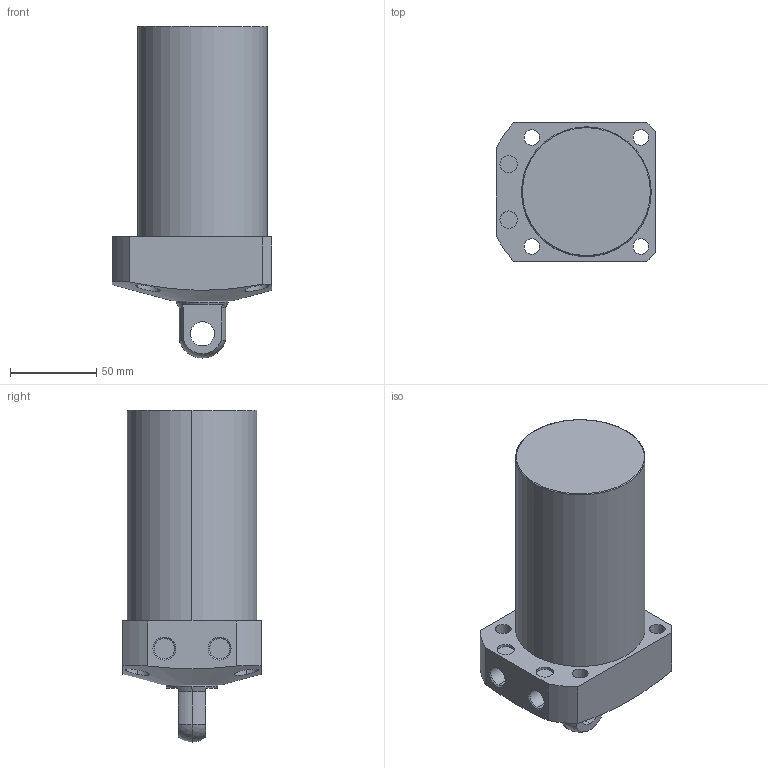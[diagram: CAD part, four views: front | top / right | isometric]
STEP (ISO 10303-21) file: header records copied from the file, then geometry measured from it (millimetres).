
FILE_DESCRIPTION (( 'STEP AP203' ), '1' );
FILE_NAME ('CLL-075CP-085.STEP', '2019-12-25T07:29:57', ( '' ), ( '' ), 'SwSTEP 2.0', 'SolidWorks 2015', '' );
FILE_SCHEMA (( 'CONFIG_CONTROL_DESIGN' ));
Length unit declared in the file: millimetre
Products named in the file (1): CLL-075CP-085
Bounding box: 92 x 80 x 192 mm (x, y, z)
Volume: 766421.3 mm3; surface area: 60649.2 mm2
Topology: 1 solids, 1 shells, 68 faces, 159 edges, 103 vertices
Faces by surface type: cylinder 35, plane 21, cone 8, sphere 2, torus 2
Entity records: 2459 total; most frequent: CARTESIAN_POINT 762, DIRECTION 357, ORIENTED_EDGE 318, EDGE_CURVE 159, AXIS2_PLACEMENT_3D 149, VERTEX_POINT 103, EDGE_LOOP 88, CIRCLE 80
